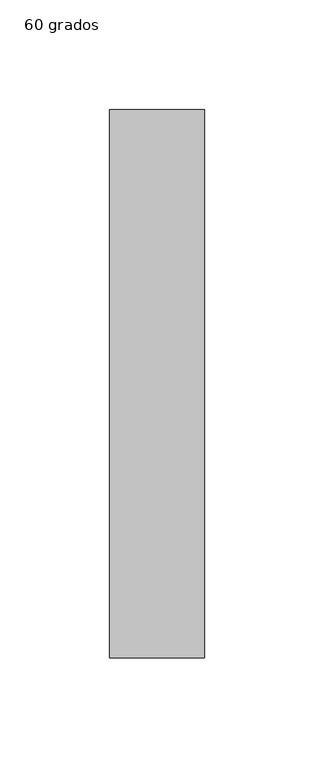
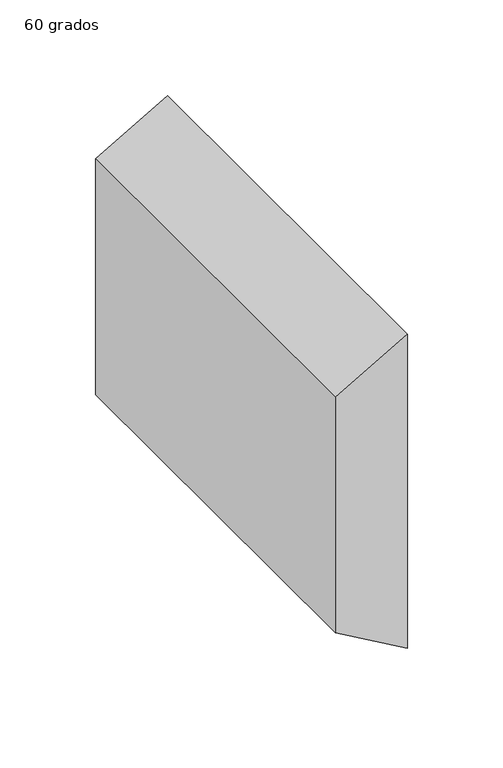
"""IFC4 building model written with IfcOpenShell, lengths in millimetres: duct fitting geometry, M_Transición rectangular - Ángulo : 60 grados."""

from ifc_helpers import new_model, si_unit, frame, origin, place, context, project, spatial, polyline, outline, extrude, source, transform, mapped, element, save


def duct_fitting_60_grados_ef8cd884(model_context):
    return source(origin(), model_context, "Body", "SweptSolid", [
        extrude(outline(polyline([(75.0, 0.0), (-75.0, 0.0), (-100.0, 43.3012702), (100.0, 43.3012702), (75.0, 0.0)])), frame((0.0, -125.0, 0.0), z_axis=(0.0, 1.0, 0.0), x_axis=(0.0, 0.0, 1.0)), (0.0, 0.0, 1.0), 250.0),
    ])


if __name__ == "__main__":
    model = new_model("IFC4")
    model_context = context("Model", 3, world=origin())
    ifc_project = project(units=[si_unit("LENGTHUNIT", "METRE", prefix="MILLI")], contexts=[model_context])
    site = spatial("IfcSite", under=ifc_project)
    building = spatial("IfcBuilding", under=site)
    placement = place(None, origin())
    duct_fitting_60_grados_shape = duct_fitting_60_grados_ef8cd884(model_context)
    element("IfcDuctFitting", 1, ObjectType="M_Transición rectangular - Ángulo : 60 grados", at=placement, inside=building, context=model_context, shape_type="MappedRepresentation", body=[
        mapped(duct_fitting_60_grados_shape, transform((0.0, 0.0, 0.0), x_axis=(1.0, 0.0, 0.0), y_axis=(0.0, 1.0, 0.0), z_axis=(0.0, 0.0, 1.0))),
    ])
    save(model, "model.ifc")
